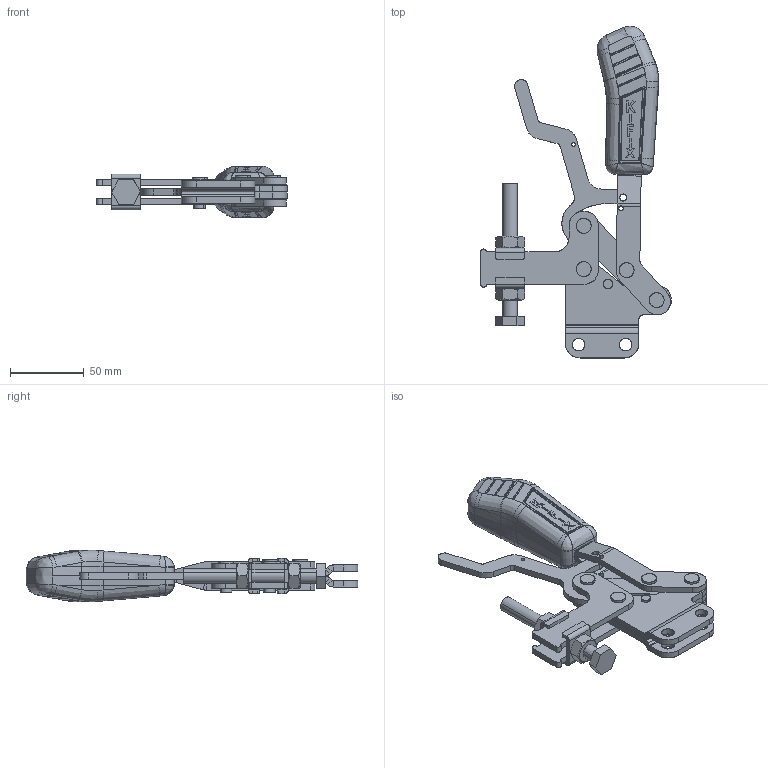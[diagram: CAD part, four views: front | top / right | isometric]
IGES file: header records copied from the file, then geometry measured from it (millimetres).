
Start section: SolidWorks IGES file using analytic representation for surfaces
Global section: file name: G:\Grampos\KF-631\KF-631 R TR\KF-631 R TR.IGS; native system: SolidWorks 2018; preprocessor: SolidWorks 2018; author: Ricardo.Sandi; date: 181129.160425; units: millimetre
Bounding box: 129.5 x 225.43 x 35.04 mm (x, y, z)
Surface area: 80708.8 mm2 (no closed solid volume)
Topology: 0 solids, 0 shells, 759 faces, 8945 edges, 8923 vertices
Faces by surface type: bspline 459, revolution 300
